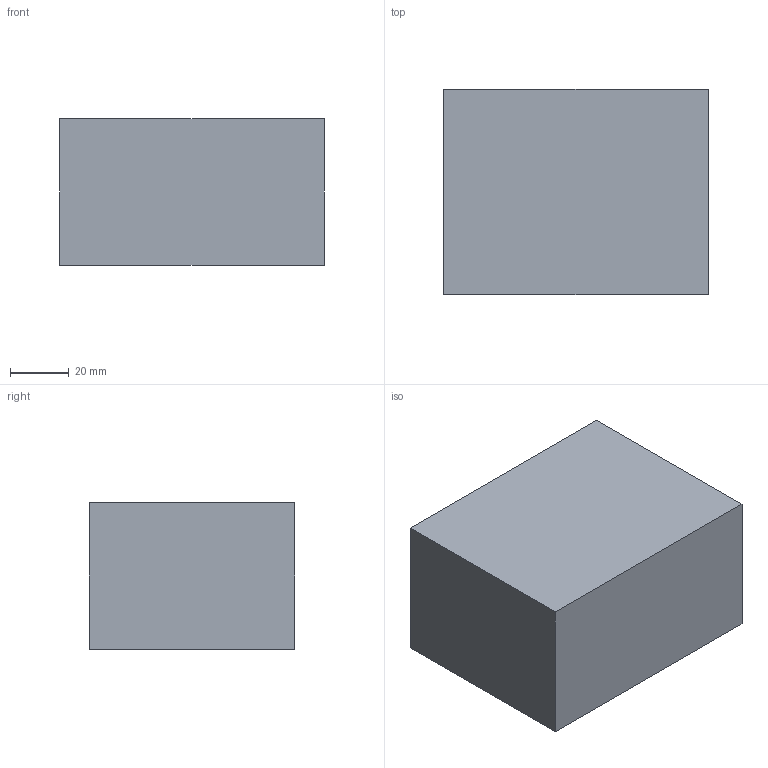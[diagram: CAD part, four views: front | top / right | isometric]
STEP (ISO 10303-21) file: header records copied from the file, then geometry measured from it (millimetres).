
FILE_DESCRIPTION(('Open CASCADE Model'),'2;1');
FILE_NAME('Open CASCADE Shape Model','2026-10-16T19:20:09',('Author'),( 'Open CASCADE'),'Open CASCADE STEP processor 7.8','Open CASCADE 7.8' ,'Unknown');
FILE_SCHEMA(('AUTOMOTIVE_DESIGN { 1 0 10303 214 1 1 1 1 }'));
Length unit declared in the file: millimetre
Products named in the file (1): Open CASCADE STEP translator 7.8 45
Bounding box: 90 x 70 x 50 mm (x, y, z)
Volume: 315000 mm3; surface area: 28600 mm2
Topology: 1 solids, 1 shells, 6 faces, 12 edges, 8 vertices
Faces by surface type: plane 6
Entity records: 322 total; most frequent: CARTESIAN_POINT 51, DIRECTION 50, LINE 36, VECTOR 36, ORIENTED_EDGE 24, PCURVE 24, DEFINITIONAL_REPRESENTATION 24, EDGE_CURVE 12
